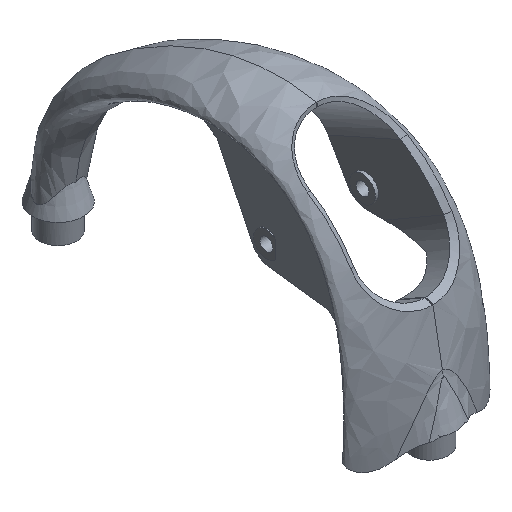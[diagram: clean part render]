
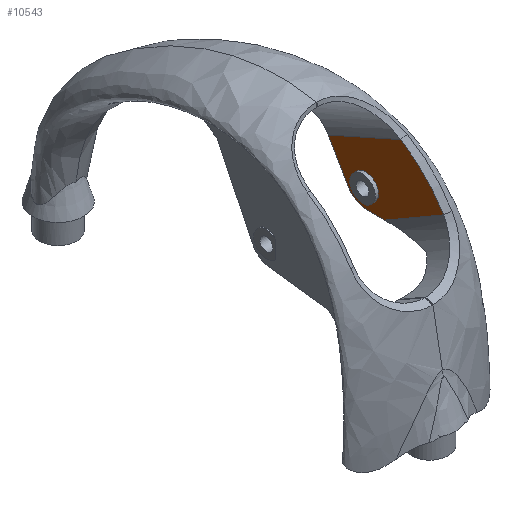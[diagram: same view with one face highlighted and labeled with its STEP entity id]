
A CAD part, isometric view. The second image highlights one B-rep face of the part: STEP entity #10543.
In plain terms, the highlighted planar face has unit normal (-1, 0, 0).
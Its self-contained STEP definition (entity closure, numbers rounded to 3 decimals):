
#6489 = VERTEX_POINT('',#6490);
#6490 = CARTESIAN_POINT('',(7.,-24.138,37.274));
#6600 = EDGE_CURVE('',#6489,#6601,#6603,.T.);
#6601 = VERTEX_POINT('',#6602);
#6602 = CARTESIAN_POINT('',(7.,-17.466,44.111));
#6603 = B_SPLINE_CURVE_WITH_KNOTS('',13,(#6604,#6605,#6606,#6607,#6608,
    #6609,#6610,#6611,#6612,#6613,#6614,#6615,#6616,#6617,#6618,#6619,
    #6620,#6621,#6622,#6623,#6624,#6625,#6626,#6627,#6628,#6629,#6630,
    #6631,#6632,#6633,#6634,#6635,#6636,#6637,#6638,#6639,#6640,#6641,
    #6642,#6643,#6644,#6645,#6646,#6647,#6648,#6649,#6650,#6651,#6652,
    #6653),.UNSPECIFIED.,.F.,.F.,(14,12,12,12,14),(43.449,
    47.338,50.23,53.121,53.787),
  .UNSPECIFIED.);
#6604 = CARTESIAN_POINT('',(7.,-24.138,37.274));
#6605 = CARTESIAN_POINT('',(7.,-23.988,
    37.525));
#6606 = CARTESIAN_POINT('',(7.,-23.85,
    37.756));
#6607 = CARTESIAN_POINT('',(7.,-23.699,
    37.993));
#6608 = CARTESIAN_POINT('',(7.,-23.544,
    38.234));
#6609 = CARTESIAN_POINT('',(7.,-23.392,
    38.461));
#6610 = CARTESIAN_POINT('',(7.,-23.232,
    38.693));
#6611 = CARTESIAN_POINT('',(7.,-23.07,
    38.923));
#6612 = CARTESIAN_POINT('',(7.,-22.907,
    39.145));
#6613 = CARTESIAN_POINT('',(7.,-22.737,
    39.37));
#6614 = CARTESIAN_POINT('',(7.,-22.567,
    39.59));
#6615 = CARTESIAN_POINT('',(7.,-22.393,
    39.807));
#6616 = CARTESIAN_POINT('',(7.,-22.215,
    40.022));
#6617 = CARTESIAN_POINT('',(7.,-21.9,
    40.391));
#6618 = CARTESIAN_POINT('',(7.,-21.764,
    40.547));
#6619 = CARTESIAN_POINT('',(7.,-21.626,
    40.701));
#6620 = CARTESIAN_POINT('',(7.,-21.487,
    40.853));
#6621 = CARTESIAN_POINT('',(7.,-21.345,
    41.004));
#6622 = CARTESIAN_POINT('',(7.,-21.202,41.153
    ));
#6623 = CARTESIAN_POINT('',(7.,-21.058,
    41.3));
#6624 = CARTESIAN_POINT('',(7.,-20.911,
    41.446));
#6625 = CARTESIAN_POINT('',(7.,-20.763,
    41.589));
#6626 = CARTESIAN_POINT('',(7.,-20.613,
    41.731));
#6627 = CARTESIAN_POINT('',(7.,-20.461,
    41.871));
#6628 = CARTESIAN_POINT('',(7.,-20.308,
    42.009));
#6629 = CARTESIAN_POINT('',(7.,-19.998,
    42.281));
#6630 = CARTESIAN_POINT('',(7.,-19.842,
    42.415));
#6631 = CARTESIAN_POINT('',(7.,-19.685,
    42.546));
#6632 = CARTESIAN_POINT('',(7.,-19.52,
    42.68));
#6633 = CARTESIAN_POINT('',(7.,-19.371,
    42.8));
#6634 = CARTESIAN_POINT('',(7.,-19.185,
    42.941));
#6635 = CARTESIAN_POINT('',(7.,-19.052,
    43.044));
#6636 = CARTESIAN_POINT('',(7.,-18.855,
    43.186));
#6637 = CARTESIAN_POINT('',(7.,-18.708,
    43.294));
#6638 = CARTESIAN_POINT('',(7.,-18.535,
    43.412));
#6639 = CARTESIAN_POINT('',(7.,-18.355,43.536));
#6640 = CARTESIAN_POINT('',(7.,-18.196,43.639));
#6641 = CARTESIAN_POINT('',(7.,-17.972,43.784));
#6642 = CARTESIAN_POINT('',(7.,-17.93,
    43.811));
#6643 = CARTESIAN_POINT('',(7.,-17.888,
    43.838));
#6644 = CARTESIAN_POINT('',(7.,-17.846,
    43.865));
#6645 = CARTESIAN_POINT('',(7.,-17.804,
    43.892));
#6646 = CARTESIAN_POINT('',(7.,-17.762,
    43.919));
#6647 = CARTESIAN_POINT('',(7.,-17.72,
    43.947));
#6648 = CARTESIAN_POINT('',(7.,-17.678,
    43.974));
#6649 = CARTESIAN_POINT('',(7.,-17.635,
    44.001));
#6650 = CARTESIAN_POINT('',(7.,-17.593,
    44.029));
#6651 = CARTESIAN_POINT('',(7.,-17.551,
    44.056));
#6652 = CARTESIAN_POINT('',(7.,-17.508,
    44.083));
#6653 = CARTESIAN_POINT('',(7.,-17.466,44.111));
#7043 = VERTEX_POINT('',#7044);
#7044 = CARTESIAN_POINT('',(7.,-6.177,39.085));
#7053 = EDGE_CURVE('',#6601,#7043,#7054,.T.);
#7054 = LINE('',#7055,#7056);
#7055 = CARTESIAN_POINT('',(7.,-11.578,41.489));
#7056 = VECTOR('',#7057,1.);
#7057 = DIRECTION('',(0.,0.914,-0.407)
  );
#8505 = VERTEX_POINT('',#8506);
#8506 = CARTESIAN_POINT('',(7.,-15.004,32.));
#8522 = EDGE_CURVE('',#8505,#6489,#8523,.T.);
#8523 = LINE('',#8524,#8525);
#8524 = CARTESIAN_POINT('',(7.,-21.399,35.692));
#8525 = VECTOR('',#8526,1.);
#8526 = DIRECTION('',(0.,-0.866,0.5));
#10543 = ADVANCED_FACE('',(#10544,#10572),#10583,.F.);
#10544 = FACE_BOUND('',#10545,.F.);
#10545 = EDGE_LOOP('',(#10546,#10547,#10548,#10549,#10557,#10566));
#10546 = ORIENTED_EDGE('',*,*,#7053,.F.);
#10547 = ORIENTED_EDGE('',*,*,#6600,.F.);
#10548 = ORIENTED_EDGE('',*,*,#8522,.F.);
#10549 = ORIENTED_EDGE('',*,*,#10550,.F.);
#10550 = EDGE_CURVE('',#10551,#8505,#10553,.T.);
#10551 = VERTEX_POINT('',#10552);
#10552 = CARTESIAN_POINT('',(7.,-12.,32.));
#10553 = LINE('',#10554,#10555);
#10554 = CARTESIAN_POINT('',(7.,-15.042,32.));
#10555 = VECTOR('',#10556,1.);
#10556 = DIRECTION('',(0.,-1.,0.));
#10557 = ORIENTED_EDGE('',*,*,#10558,.F.);
#10558 = EDGE_CURVE('',#10559,#10551,#10561,.T.);
#10559 = VERTEX_POINT('',#10560);
#10560 = CARTESIAN_POINT('',(7.,-9.402,33.5));
#10561 = CIRCLE('',#10562,3.);
#10562 = AXIS2_PLACEMENT_3D('',#10563,#10564,#10565);
#10563 = CARTESIAN_POINT('',(7.,-12.,35.));
#10564 = DIRECTION('',(-1.,0.,0.));
#10565 = DIRECTION('',(0.,1.,0.));
#10566 = ORIENTED_EDGE('',*,*,#10567,.F.);
#10567 = EDGE_CURVE('',#7043,#10559,#10568,.T.);
#10568 = LINE('',#10569,#10570);
#10569 = CARTESIAN_POINT('',(7.,-3.46,43.791));
#10570 = VECTOR('',#10571,1.);
#10571 = DIRECTION('',(0.,-0.5,
    -0.866));
#10572 = FACE_BOUND('',#10573,.F.);
#10573 = EDGE_LOOP('',(#10574));
#10574 = ORIENTED_EDGE('',*,*,#10575,.F.);
#10575 = EDGE_CURVE('',#10576,#10576,#10578,.T.);
#10576 = VERTEX_POINT('',#10577);
#10577 = CARTESIAN_POINT('',(7.,-12.,33.));
#10578 = CIRCLE('',#10579,2.);
#10579 = AXIS2_PLACEMENT_3D('',#10580,#10581,#10582);
#10580 = CARTESIAN_POINT('',(7.,-12.,35.));
#10581 = DIRECTION('',(1.,-0.,0.));
#10582 = DIRECTION('',(0.,0.,-1.));
#10583 = PLANE('',#10584);
#10584 = AXIS2_PLACEMENT_3D('',#10585,#10586,#10587);
#10585 = CARTESIAN_POINT('',(7.,-18.084,39.076));
#10586 = DIRECTION('',(1.,0.,0.));
#10587 = DIRECTION('',(0.,0.,1.));
